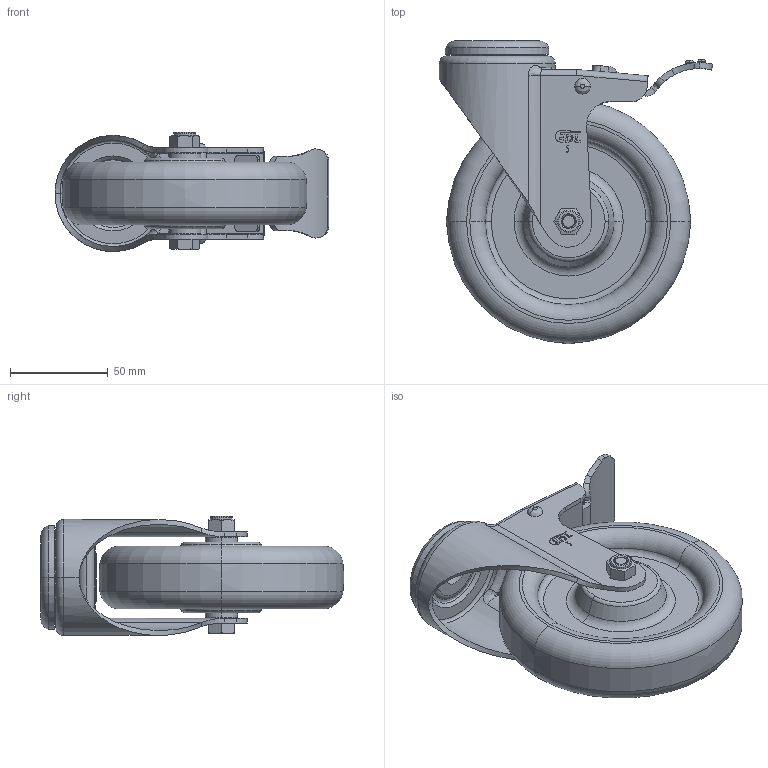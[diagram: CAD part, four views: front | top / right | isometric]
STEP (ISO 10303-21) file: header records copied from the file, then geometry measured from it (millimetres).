
FILE_DESCRIPTION((''),'2;1');
FILE_NAME('S54785L_ASM','2021-08-10T',('lenovo'),(''),'PRO/ENGINEER BY PARAMETRIC TECHNOLOGY CORPORATION, 2010280','PRO/ENGINEER BY PARAMETRIC TECHNOLOGY CORPORATION, 2010280','');
FILE_SCHEMA(('CONFIG_CONTROL_DESIGN'));
Length unit declared in the file: millimetre
Products named in the file (7): S545-12; S540-27; 505-986; S540-33; S540-34; S540-14; S54785L_ASM
Assembly tree (6 placements, depth 2):
  S54785L_ASM
    S545-12
    S540-27
    505-986
    S540-33
    S540-34
    S540-14
Bounding box: 139.79 x 154.95 x 60.8 mm (x, y, z)
Volume: 354996.4 mm3; surface area: 84979.1 mm2
Topology: 10 solids, 10 shells, 348 faces, 820 edges, 508 vertices
Faces by surface type: plane 156, cylinder 88, torus 40, cone 36, bspline 28
Entity records: 12564 total; most frequent: CARTESIAN_POINT 4463, DIRECTION 1668, ORIENTED_EDGE 1640, EDGE_CURVE 820, AXIS2_PLACEMENT_3D 613, VERTEX_POINT 508, VECTOR 442, LINE 442
